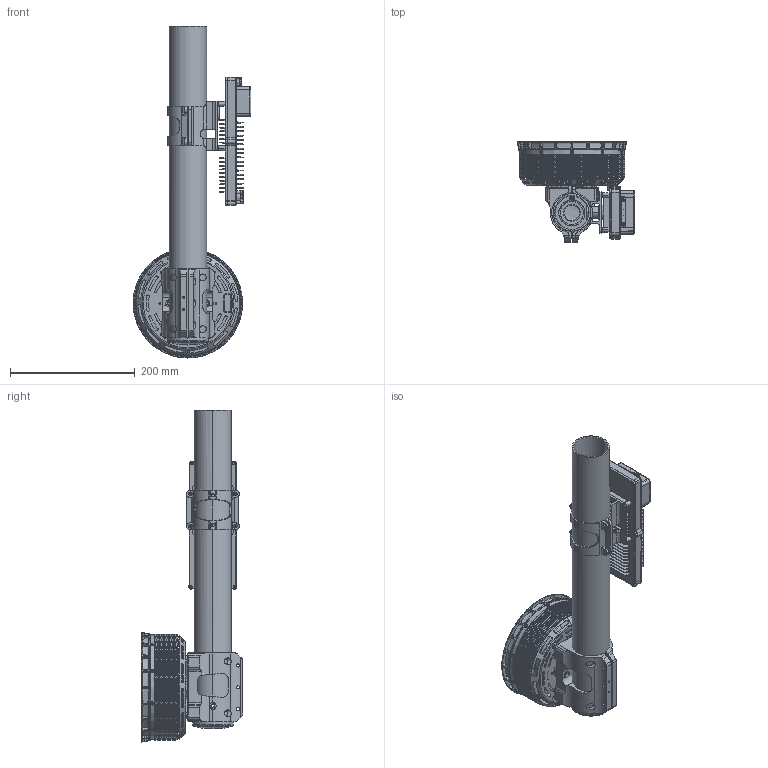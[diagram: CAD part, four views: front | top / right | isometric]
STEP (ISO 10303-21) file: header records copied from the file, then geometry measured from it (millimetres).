
FILE_DESCRIPTION (( 'STEP AP214' ), '1' );
FILE_NAME ('A16L耀輸趙雄薯.STEP', '2026-04-08T06:48:42', ( '' ), ( '' ), 'SwSTEP 2.0', 'SolidWorks 2022', '' );
FILE_SCHEMA (( 'AUTOMOTIVE_DESIGN' ));
Length unit declared in the file: millimetre
Products named in the file (1): A16L模块化动力
Bounding box: 188.95 x 162.75 x 532.85 mm (x, y, z)
Volume: 1908653.9 mm3; surface area: 678816 mm2
Topology: 20 solids, 27 shells, 5104 faces, 12715 edges, 7679 vertices
Faces by surface type: cylinder 2202, bspline 1338, plane 1064, cone 428, torus 72
Entity records: 234068 total; most frequent: CARTESIAN_POINT 97306, ORIENTED_EDGE 25334, DIRECTION 21477, EDGE_CURVE 12667, AXIS2_PLACEMENT_3D 8072, VERTEX_POINT 7678, EDGE_LOOP 5459, LINE 5333
